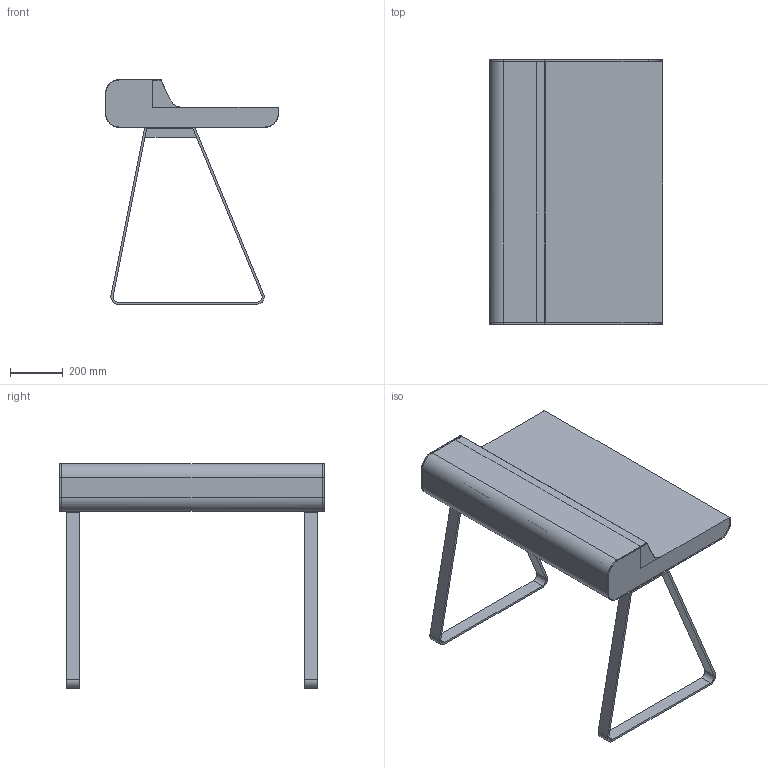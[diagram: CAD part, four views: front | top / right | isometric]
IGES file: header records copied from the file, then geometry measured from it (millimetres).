
Start section: Comment
Global section: file name: PS10.igs; native system:  By UGS Corp.; preprocessor: XPlus GENERIC/IGES 3.0; author: Author; organization: Title; date: 20200324.153919; units: inch
Bounding box: 655 x 1000 x 850 mm (x, y, z)
Surface area: 3069336.3 mm2 (no closed solid volume)
Topology: 0 solids, 0 shells, 114 faces, 634 edges, 634 vertices
Faces by surface type: bspline 114
